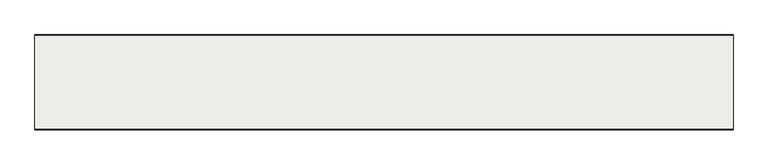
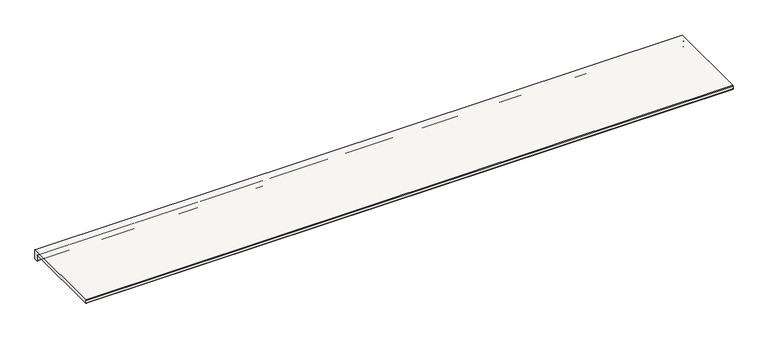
"""IFC4 building model written with IfcOpenShell, lengths in millimetres: slab geometry, ROSA GRES_L62 : Pieza L62_Serena_Ocra_Anti-Slip."""

import ifcopenshell
import ifcopenshell.guid

model = None  # the IFC model being written
_history = None  # IfcOwnerHistory: only IFC2X3 demands one
_inside = {}  # id of a spatial element -> (the spatial element, [elements in it])
_under = {}  # id of a project, library or spatial element -> (it, [spatial elements below it])
_declared = {}  # id of a project -> (the project, [libraries it declares])
_typed = {}  # id of a type object -> (the type object, [elements of that type])
_made_of = {}  # id of a material, layer set ... -> (it, [elements and type objects made of it])


def new_model(schema):
    """Start an empty IFC model of exactly this schema.

    Asked for "IFC4X3", IfcOpenShell would pick the latest addendum, in which some entities
    have other attributes; the version numbers below select the first issue.
    IFC2X3 requires an IfcOwnerHistory on every rooted entity: one is made here for all.
    """
    global model, _history
    if schema == "IFC4X3":
        model = ifcopenshell.file(schema_version=(4, 3, 0, 0))
    else:
        model = ifcopenshell.file(schema=schema)
    _inside.clear()
    _under.clear()
    _declared.clear()
    _typed.clear()
    _made_of.clear()
    _history = None
    if model.schema == "IFC2X3":
        org = make("IfcOrganization", Name="unknown")
        user = make(
            "IfcPersonAndOrganization",
            ThePerson=make("IfcPerson", FamilyName="unknown"),
            TheOrganization=org,
        )
        app = make(
            "IfcApplication",
            ApplicationDeveloper=org,
            Version="unknown",
            ApplicationFullName="unknown",
            ApplicationIdentifier="unknown",
        )
        _history = make(
            "IfcOwnerHistory",
            OwningUser=user,
            OwningApplication=app,
            ChangeAction="ADDED",
            CreationDate=0,
        )
    return model


def make(cls, **values):
    """One entity of the class cls with the attributes given. An attribute that is None is left unset."""
    return model.create_entity(
        cls, **{name: value for name, value in values.items() if value is not None}
    )


def rooted(cls, **values):
    """An entity with a GlobalId (a new one), such as an element, a storey or a relation."""
    return make(cls, GlobalId=ifcopenshell.guid.new(), OwnerHistory=_history, **values)


def si_unit(unit_type, name, prefix=None):
    """IfcSIUnit, for example si_unit("LENGTHUNIT", "METRE", prefix="MILLI")."""
    return make("IfcSIUnit", UnitType=unit_type, Prefix=prefix, Name=name)


def assignment(units):
    """IfcUnitAssignment: the units of a project."""
    return None if units is None else make("IfcUnitAssignment", Units=units)


def point(xyz):
    """IfcCartesianPoint."""
    return None if xyz is None else make("IfcCartesianPoint", Coordinates=xyz)


def direction(xyz):
    """IfcDirection."""
    return None if xyz is None else make("IfcDirection", DirectionRatios=xyz)


def frame(location, z_axis=None, x_axis=None):
    """IfcAxis2Placement3D, a coordinate frame: its origin and axes. An axis left out is left unset."""
    return make(
        "IfcAxis2Placement3D",
        Location=point(location),
        Axis=direction(z_axis),
        RefDirection=direction(x_axis),
    )


def frame_2d(location, x_axis=None):
    """IfcAxis2Placement2D, a coordinate frame in the plane: its origin and x axis."""
    return make(
        "IfcAxis2Placement2D", Location=point(location), RefDirection=direction(x_axis)
    )


def origin():
    """The frame at (0, 0, 0) with its axes left unset."""
    return frame((0.0, 0.0, 0.0))


def place(relative_to, where):
    """IfcLocalPlacement: puts the frame where relative to a parent placement (None: the world)."""
    return make(
        "IfcLocalPlacement", PlacementRelTo=relative_to, RelativePlacement=where
    )


def context(
    kind, dimensions, precision=None, world=None, true_north=None, identifier=None
):
    """IfcGeometricRepresentationContext, for example the 3D "Model" context."""
    return make(
        "IfcGeometricRepresentationContext",
        ContextIdentifier=identifier,
        ContextType=kind,
        CoordinateSpaceDimension=dimensions,
        Precision=precision,
        WorldCoordinateSystem=world,
        TrueNorth=true_north,
    )


def project(units=None, contexts=None):
    """IfcProject with its units and contexts."""
    return rooted(
        "IfcProject",
        Name="project",
        RepresentationContexts=contexts,
        UnitsInContext=assignment(units),
    )


def spatial(cls, under=None, at=None, **own):
    """A site, building, storey or space (cls), placed at a placement, below another one or the project."""
    s = rooted(cls, ObjectPlacement=at, **own)
    if under is not None:
        _under.setdefault(under.id(), (under, []))[1].append(s)
    return s


def polyline(points):
    """IfcPolyline through the points."""
    return make("IfcPolyline", Points=[point(p) for p in points])


def circle_curve(where, radius):
    """IfcCircle in the frame where."""
    return make("IfcCircle", Position=where, Radius=radius)


def trimmed(basis, trim1, trim2, sense, master):
    """IfcTrimmedCurve: the piece of a basis curve between two trims."""
    return make(
        "IfcTrimmedCurve",
        BasisCurve=basis,
        Trim1=trim1,
        Trim2=trim2,
        SenseAgreement=sense,
        MasterRepresentation=master,
    )


def segment(curve, same_sense, transition):
    """IfcCompositeCurveSegment."""
    return make(
        "IfcCompositeCurveSegment",
        Transition=transition,
        SameSense=same_sense,
        ParentCurve=curve,
    )


def composite_curve(segments, self_intersect=None):
    """IfcCompositeCurve: segments joined end to end."""
    return make("IfcCompositeCurve", Segments=segments, SelfIntersect=self_intersect)


def outline(outer, holes=None, kind="AREA"):
    """IfcArbitraryClosedProfileDef: a profile drawn as a closed curve; with holes, ...WithVoids."""
    if holes is None:
        return make("IfcArbitraryClosedProfileDef", ProfileType=kind, OuterCurve=outer)
    return make(
        "IfcArbitraryProfileDefWithVoids",
        ProfileType=kind,
        OuterCurve=outer,
        InnerCurves=holes,
    )


def extrude(swept, where, along, depth):
    """IfcExtrudedAreaSolid: the profile swept, set in the frame where, extruded along a direction by depth."""
    return make(
        "IfcExtrudedAreaSolid",
        SweptArea=swept,
        Position=where,
        ExtrudedDirection=direction(along),
        Depth=depth,
    )


def shape(context_of_items, identifier, shape_type, items):
    """IfcShapeRepresentation: the items that make up one representation, for example the "Body"."""
    return make(
        "IfcShapeRepresentation",
        ContextOfItems=context_of_items,
        RepresentationIdentifier=identifier,
        RepresentationType=shape_type,
        Items=items,
    )


def source(mapping_origin, context_of_items, identifier, shape_type, items):
    """IfcRepresentationMap: a shape defined once, which mapped items show again and again."""
    return make(
        "IfcRepresentationMap",
        MappingOrigin=mapping_origin,
        MappedRepresentation=shape(context_of_items, identifier, shape_type, items),
    )


def transform(
    local_origin,
    x_axis=None,
    y_axis=None,
    z_axis=None,
    scale=None,
    scale2=None,
    scale3=None,
    uniform=True,
):
    """IfcCartesianTransformationOperator3D, or its non-uniform kind. x_axis, y_axis, z_axis: its Axis1, 2, 3."""
    if uniform:
        return make(
            "IfcCartesianTransformationOperator3D",
            Axis1=direction(x_axis),
            Axis2=direction(y_axis),
            LocalOrigin=point(local_origin),
            Scale=scale,
            Axis3=direction(z_axis),
        )
    return make(
        "IfcCartesianTransformationOperator3DnonUniform",
        Axis1=direction(x_axis),
        Axis2=direction(y_axis),
        LocalOrigin=point(local_origin),
        Scale=scale,
        Axis3=direction(z_axis),
        Scale2=scale2,
        Scale3=scale3,
    )


def mapped(mapping_source, mapping_target):
    """IfcMappedItem: shows the shape of a source again, moved by a transform."""
    return make(
        "IfcMappedItem", MappingSource=mapping_source, MappingTarget=mapping_target
    )


def made_of(thing, what):
    """Note that an element or type object is made of a material, layer set ...; save() writes the relation."""
    if what is not None:
        _made_of.setdefault(what.id(), (what, []))[1].append(thing)
    return thing


def element(
    cls,
    number,
    at=None,
    inside=None,
    cuts=None,
    type_object=None,
    material=None,
    context=None,
    identifier="Body",
    shape_type=None,
    held_by="IfcProductDefinitionShape",
    body=None,
    shapes=None,
    **own,
):
    """One element of the class cls, such as IfcWall. Its Tag is "e" and its number.

    at: its placement. inside: the storey or other place that contains it. cuts: it is an
    opening in that element (IfcRelVoidsElement). A single representation is given by context,
    identifier, shape_type and body (its items); several are given by shapes. held_by: the class
    of the entity that holds the representations. save() writes the other relations.
    """
    e = rooted(cls, Tag="e%d" % number, ObjectPlacement=at, **own)
    if body is not None:
        shapes = [shape(context, identifier, shape_type, body)]
    if shapes is not None:
        e.Representation = make(held_by, Representations=shapes)
    if inside is not None:
        _inside.setdefault(inside.id(), (inside, []))[1].append(e)
    if cuts is not None:
        rooted(
            "IfcRelVoidsElement", RelatingBuildingElement=cuts, RelatedOpeningElement=e
        )
    if type_object is not None:
        _typed.setdefault(type_object.id(), (type_object, []))[1].append(e)
    return made_of(e, material)


def aggregate(whole, parts):
    """IfcRelAggregates: a whole, such as a stair, and the parts it consists of."""
    return rooted("IfcRelAggregates", RelatingObject=whole, RelatedObjects=parts)


def save(model, path):
    """Write the relations noted so far, then the file.

    IfcRelAggregates (storeys below a building ...), IfcRelContainedInSpatialStructure (elements
    in a storey), IfcRelDefinesByType, IfcRelAssociatesMaterial and IfcRelDeclares: one each for
    every whole, place, type object, material and project.
    """
    for whole, parts in _under.values():
        aggregate(whole, parts)
    for where, things in _inside.values():
        rooted(
            "IfcRelContainedInSpatialStructure",
            RelatedElements=things,
            RelatingStructure=where,
        )
    for kind, things in _typed.values():
        rooted("IfcRelDefinesByType", RelatedObjects=things, RelatingType=kind)
    for what, things in _made_of.values():
        rooted("IfcRelAssociatesMaterial", RelatedObjects=things, RelatingMaterial=what)
    for by, libraries in _declared.values():
        rooted("IfcRelDeclares", RelatingContext=by, RelatedDefinitions=libraries)
    model.write(path)


def slab_f668fd21(model_context):
    return source(origin(), model_context, "Body", "SweptSolid", [
        extrude(outline(composite_curve([segment(trimmed(circle_curve(frame_2d((-12.1001991, -35.1001991)), 1.8998009), [point((-12.1001991, -37.0))], [point((-14.0, -35.1001991))], False, "CARTESIAN"), True, "CONTINUOUS"), segment(polyline([(-14.0, -35.1001991), (-14.0, -16.5836242)]), True, "CONTINUOUS"), segment(trimmed(circle_curve(frame_2d((-16.6422322, -16.5836242)), 2.6422322), [point((-14.0, -16.5836242))], [point((-16.6422322, -13.9413919))], True, "CARTESIAN"), True, "CONTINUOUS"), segment(polyline([(-16.6422322, -13.9413919), (-315.5234432, -13.9413919)]), True, "CONTINUOUS"), segment(trimmed(circle_curve(frame_2d((-315.5234432, -12.4648352)), 1.4765568), [point((-315.5234432, -13.9413919))], [point((-317.0, -12.4648352))], False, "CARTESIAN"), True, "CONTINUOUS"), segment(polyline([(-317.0, -12.4648352), (-317.0, -2.5), (-315.5, 0.0), (-2.5, 0.0), (0.0, -2.5), (0.0, -34.5)]), True, "CONTINUOUS"), segment(trimmed(circle_curve(frame_2d((-2.5, -34.5)), 2.5), [point((0.0, -34.5))], [point((-2.5, -37.0))], False, "CARTESIAN"), True, "CONTINUOUS"), segment(polyline([(-2.5, -37.0), (-5.422949, -37.0)]), True, "CONTINUOUS"), segment(trimmed(circle_curve(frame_2d((-7.4142134, -37.0)), 1.9912643), [point((-5.422949, -37.0))], [point((-9.4054777, -37.0))], True, "CARTESIAN"), True, "CONTINUOUS"), segment(polyline([(-9.4054777, -37.0), (-12.1001991, -37.0)]), True, "CONTINUOUS")], self_intersect=False)), frame((0.0, 0.0, 0.0), z_axis=(1.0, 0.0, 0.0), x_axis=(0.0, 1.0, 0.0)), (0.0, 0.0, 1.0), 2320.0),
    ])


if __name__ == "__main__":
    model = new_model("IFC4")
    model_context = context("Model", 3, world=origin())
    ifc_project = project(units=[si_unit("LENGTHUNIT", "METRE", prefix="MILLI")], contexts=[model_context])
    site = spatial("IfcSite", under=ifc_project)
    building = spatial("IfcBuilding", under=site)
    placement = place(None, origin())
    slab_shape = slab_f668fd21(model_context)
    element("IfcSlab", 1, ObjectType="ROSA GRES_L62 : Pieza L62_Serena_Ocra_Anti-Slip", at=placement, inside=building, context=model_context, shape_type="MappedRepresentation", body=[
        mapped(slab_shape, transform((0.0, 0.0, 0.0), x_axis=(1.0, 0.0, 0.0), y_axis=(0.0, 1.0, 0.0), z_axis=(0.0, 0.0, 1.0))),
    ])
    save(model, "model.ifc")
